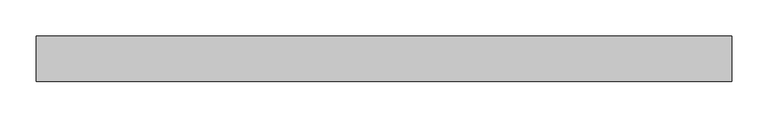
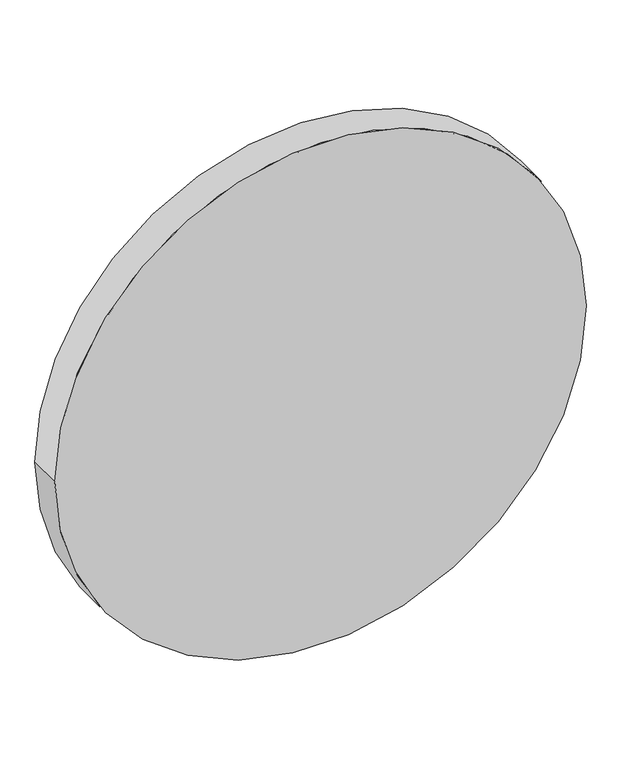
"""IFC4 building model written with IfcOpenShell, lengths in millimetres: proxy geometry, LFLO-MEXX-082."""

from ifc_helpers import new_model, si_unit, point, frame, origin, origin_2d, place, context, project, spatial, circle_curve, trimmed, segment, composite_curve, outline, extrude, source, transform, mapped, element, save


def generic_models_ae8268bc(model_context):
    return source(origin(), model_context, "Body", "SweptSolid", [
        extrude(outline(composite_curve([segment(trimmed(circle_curve(origin_2d(), 477.0), [point((0.0, 477.0))], [point((0.0, -477.0))], False, "CARTESIAN"), True, "CONTINUOUS"), segment(trimmed(circle_curve(origin_2d(), 477.0), [point((0.0, -477.0))], [point((0.0, 477.0))], False, "CARTESIAN"), True, "CONTINUOUS")], self_intersect=False)), frame((0.0, -60.0, 0.0), z_axis=(0.0, 1.0, 0.0), x_axis=(0.0, 0.0, 1.0)), (0.0, 0.0, 1.0), 62.0),
    ])


if __name__ == "__main__":
    model = new_model("IFC4")
    model_context = context("Model", 3, world=origin())
    ifc_project = project(units=[si_unit("LENGTHUNIT", "METRE", prefix="MILLI")], contexts=[model_context])
    site = spatial("IfcSite", under=ifc_project)
    building = spatial("IfcBuilding", under=site)
    placement = place(None, origin())
    generic_models_shape = generic_models_ae8268bc(model_context)
    element("IfcBuildingElementProxy", 1, Name="LFLO-MEXX-082", ObjectType="LFLO-MEXX-082", at=placement, inside=building, context=model_context, shape_type="MappedRepresentation", body=[
        mapped(generic_models_shape, transform((0.0, 0.0, 0.0), x_axis=(1.0, 0.0, 0.0), y_axis=(0.0, 1.0, 0.0), z_axis=(0.0, 0.0, 1.0))),
    ])
    save(model, "model.ifc")
